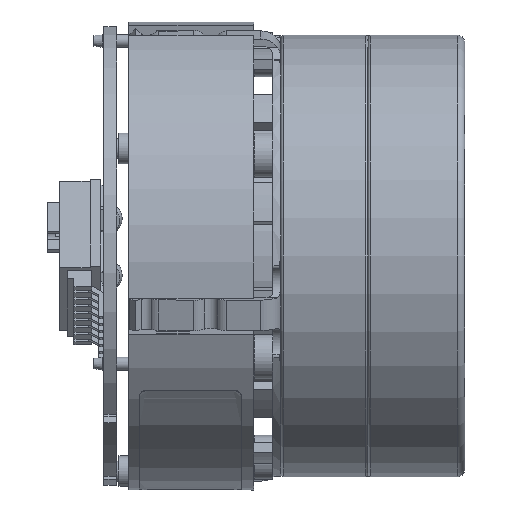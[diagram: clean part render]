
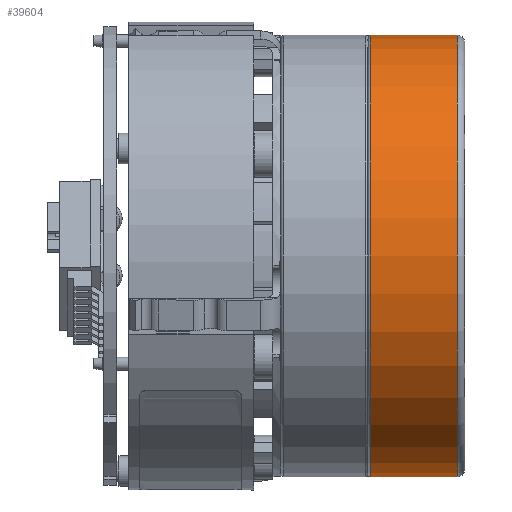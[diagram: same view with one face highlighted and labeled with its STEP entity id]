
A CAD part, front view. The second image highlights one B-rep face of the part: STEP entity #39604.
In plain terms, the highlighted cylindrical face has radius 27.4 mm (diameter 54.8 mm), a full revolution.
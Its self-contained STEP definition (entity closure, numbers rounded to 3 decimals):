
#1131 = ORIENTED_EDGE ( 'NONE', *, *, #38083, .T. ) ;
#1892 = VERTEX_POINT ( 'NONE', #38702 ) ;
#2372 = AXIS2_PLACEMENT_3D ( 'NONE', #12721, #34419, #31269 ) ;
#2667 = CIRCLE ( 'NONE', #33451, 27.4 ) ;
#4641 = DIRECTION ( 'NONE',  ( 1., 0., 0. ) ) ;
#9295 = CYLINDRICAL_SURFACE ( 'NONE', #2372, 27.4 ) ;
#9836 = CARTESIAN_POINT ( 'NONE',  ( 11.1, 0., 0. ) ) ;
#10294 = FACE_OUTER_BOUND ( 'NONE', #11836, .T. ) ;
#11836 = EDGE_LOOP ( 'NONE', ( #1131 ) ) ;
#12721 = CARTESIAN_POINT ( 'NONE',  ( 12., 0., 0. ) ) ;
#12910 = DIRECTION ( 'NONE',  ( 0., 0., -1. ) ) ;
#14657 = CARTESIAN_POINT ( 'NONE',  ( 0.3, 0., -27.4 ) ) ;
#17273 = EDGE_CURVE ( 'NONE', #1892, #1892, #28362, .T. ) ;
#20117 = EDGE_LOOP ( 'NONE', ( #27958 ) ) ;
#23175 = CARTESIAN_POINT ( 'NONE',  ( 0.3, 0., 0. ) ) ;
#25762 = FACE_OUTER_BOUND ( 'NONE', #20117, .T. ) ;
#26333 = DIRECTION ( 'NONE',  ( 0., 0., -1. ) ) ;
#27527 = VERTEX_POINT ( 'NONE', #14657 ) ;
#27958 = ORIENTED_EDGE ( 'NONE', *, *, #17273, .T. ) ;
#28362 = CIRCLE ( 'NONE', #30621, 27.4 ) ;
#30621 = AXIS2_PLACEMENT_3D ( 'NONE', #9836, #31446, #12910 ) ;
#31269 = DIRECTION ( 'NONE',  ( 0., 0., 1. ) ) ;
#31446 = DIRECTION ( 'NONE',  ( -1., 0., 0. ) ) ;
#33451 = AXIS2_PLACEMENT_3D ( 'NONE', #23175, #4641, #26333 ) ;
#34419 = DIRECTION ( 'NONE',  ( -1., 0., 0. ) ) ;
#38083 = EDGE_CURVE ( 'NONE', #27527, #27527, #2667, .T. ) ;
#38702 = CARTESIAN_POINT ( 'NONE',  ( 11.1, 0., -27.4 ) ) ;
#39604 = ADVANCED_FACE ( 'NONE', ( #10294, #25762 ), #9295, .T. ) ;
